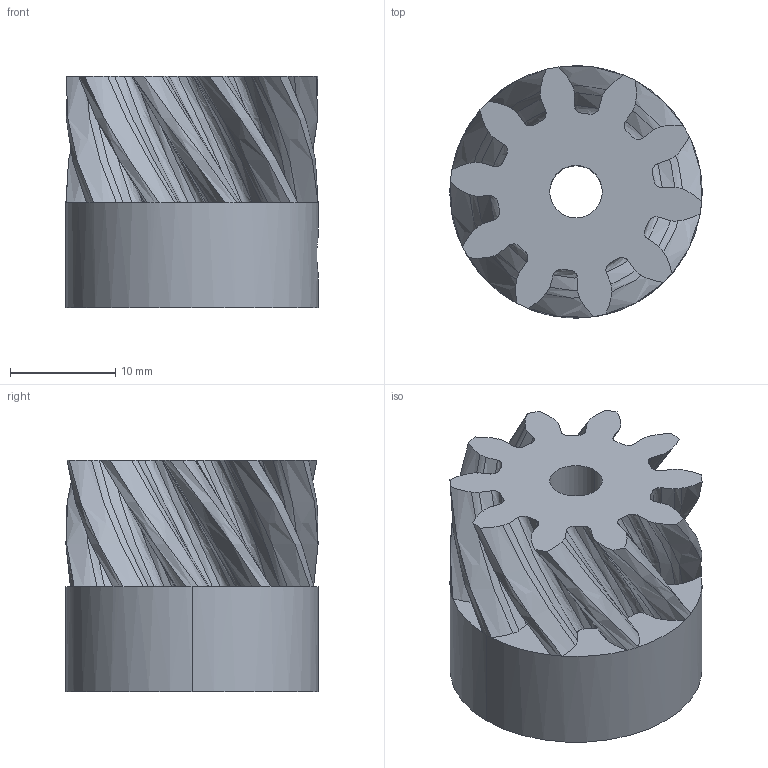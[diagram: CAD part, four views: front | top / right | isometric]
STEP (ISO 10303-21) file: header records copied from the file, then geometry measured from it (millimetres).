
FILE_DESCRIPTION((''),'2;1');
FILE_NAME('ART1GEARMOTOR_01','2022-08-24T09:19:16',('domen.bizjak'),('Audax d.o.o.'),'CREO PARAMETRIC BY PTC INC, 2021184','CREO PARAMETRIC BY PTC INC, 2021184','');
FILE_SCHEMA(('AP242_MANAGED_MODEL_BASED_3D_ENGINEERING_MIM_LF { 1 0 10303 442 1 1 4 }'));
Length unit declared in the file: millimetre
Products named in the file (1): ART1GEARMOTOR_01
Bounding box: 24 x 24 x 22 mm (x, y, z)
Volume: 7509.4 mm3; surface area: 3797.7 mm2
Topology: 1 solids, 1 shells, 126 faces, 358 edges, 236 vertices
Faces by surface type: bspline 100, plane 18, cylinder 8
Entity records: 9524 total; most frequent: CARTESIAN_POINT 3825, ORIENTED_EDGE 710, PRESENTATION_STYLE_ASSIGNMENT 491, STYLED_ITEM 365, CURVE_STYLE 360, EDGE_CURVE 355, COLOUR_RGB 319, B_SPLINE_CURVE_WITH_KNOTS 258
